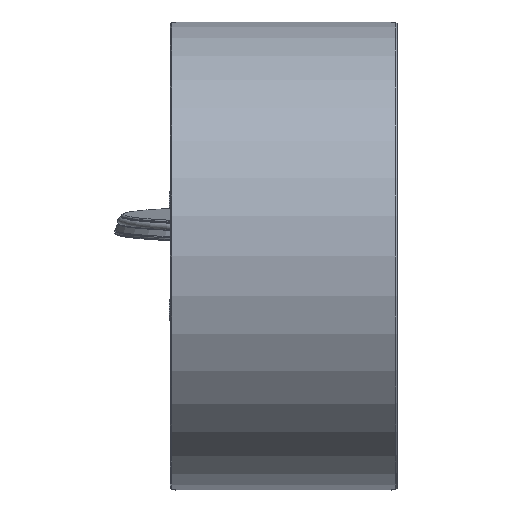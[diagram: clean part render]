
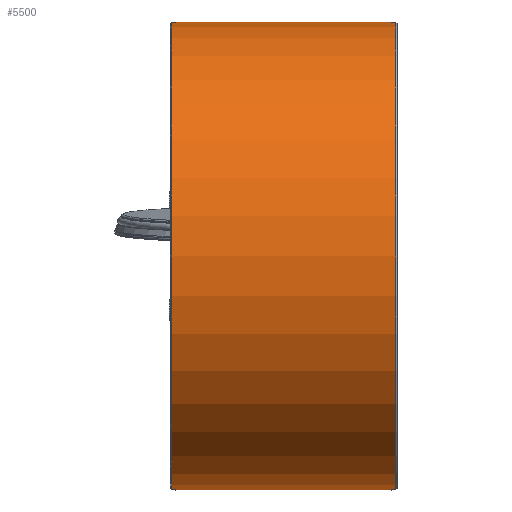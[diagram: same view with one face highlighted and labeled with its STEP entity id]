
A CAD part, left-side view. The second image highlights one B-rep face of the part: STEP entity #5500.
In plain terms, the highlighted cylindrical face has radius 82.5 mm (diameter 165 mm), a full revolution.
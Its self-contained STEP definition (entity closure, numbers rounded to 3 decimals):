
#3520=CYLINDRICAL_SURFACE('',#16841,82.5);
#3832=FACE_BOUND('',#7271,.T.);
#3833=FACE_BOUND('',#7272,.T.);
#3834=FACE_BOUND('',#7273,.T.);
#4775=CIRCLE('',#16831,82.5);
#4776=CIRCLE('',#16832,82.5);
#4777=CIRCLE('',#16833,82.5);
#4778=CIRCLE('',#16834,82.5);
#4779=CIRCLE('',#16835,82.5);
#4780=CIRCLE('',#16836,82.5);
#4781=CIRCLE('',#16837,82.5);
#4782=CIRCLE('',#16838,82.5);
#4783=CIRCLE('',#16839,82.5);
#4784=CIRCLE('',#16840,82.5);
#5500=ADVANCED_FACE('',(#3832,#3833,#3834),#3520,.T.);
#7271=EDGE_LOOP('',(#8701,#8702,#8703,#8704));
#7272=EDGE_LOOP('',(#8705,#8706,#8707,#8708,#8709,#8710,#8711,#8712));
#7273=EDGE_LOOP('',(#8713,#8714,#8715,#8716,#8717,#8718,#8719,#8720));
#8701=ORIENTED_EDGE('',*,*,#13376,.F.);
#8702=ORIENTED_EDGE('',*,*,#13377,.F.);
#8703=ORIENTED_EDGE('',*,*,#13378,.F.);
#8704=ORIENTED_EDGE('',*,*,#13379,.F.);
#8705=ORIENTED_EDGE('',*,*,#13380,.T.);
#8706=ORIENTED_EDGE('',*,*,#13381,.T.);
#8707=ORIENTED_EDGE('',*,*,#13382,.F.);
#8708=ORIENTED_EDGE('',*,*,#13383,.T.);
#8709=ORIENTED_EDGE('',*,*,#13384,.T.);
#8710=ORIENTED_EDGE('',*,*,#13385,.F.);
#8711=ORIENTED_EDGE('',*,*,#13386,.T.);
#8712=ORIENTED_EDGE('',*,*,#13387,.F.);
#8713=ORIENTED_EDGE('',*,*,#13388,.T.);
#8714=ORIENTED_EDGE('',*,*,#13389,.T.);
#8715=ORIENTED_EDGE('',*,*,#13390,.F.);
#8716=ORIENTED_EDGE('',*,*,#13391,.F.);
#8717=ORIENTED_EDGE('',*,*,#13392,.T.);
#8718=ORIENTED_EDGE('',*,*,#13393,.T.);
#8719=ORIENTED_EDGE('',*,*,#13394,.F.);
#8720=ORIENTED_EDGE('',*,*,#13395,.F.);
#12030=VERTEX_POINT('',#22607);
#12031=VERTEX_POINT('',#22608);
#12032=VERTEX_POINT('',#22610);
#12033=VERTEX_POINT('',#22612);
#12034=VERTEX_POINT('',#22615);
#12035=VERTEX_POINT('',#22616);
#12036=VERTEX_POINT('',#22618);
#12037=VERTEX_POINT('',#22620);
#12038=VERTEX_POINT('',#22622);
#12039=VERTEX_POINT('',#22624);
#12040=VERTEX_POINT('',#22626);
#12041=VERTEX_POINT('',#22628);
#12042=VERTEX_POINT('',#22631);
#12043=VERTEX_POINT('',#22632);
#12044=VERTEX_POINT('',#22634);
#12045=VERTEX_POINT('',#22636);
#12046=VERTEX_POINT('',#22638);
#12047=VERTEX_POINT('',#22640);
#12048=VERTEX_POINT('',#22642);
#12049=VERTEX_POINT('',#22644);
#13376=EDGE_CURVE('',#12030,#12031,#4775,.T.);
#13377=EDGE_CURVE('',#12032,#12030,#15063,.T.);
#13378=EDGE_CURVE('',#12033,#12032,#4776,.T.);
#13379=EDGE_CURVE('',#12031,#12033,#15064,.T.);
#13380=EDGE_CURVE('',#12034,#12035,#4777,.T.);
#13381=EDGE_CURVE('',#12035,#12036,#15065,.T.);
#13382=EDGE_CURVE('',#12037,#12036,#4778,.T.);
#13383=EDGE_CURVE('',#12037,#12038,#15066,.T.);
#13384=EDGE_CURVE('',#12038,#12039,#4779,.T.);
#13385=EDGE_CURVE('',#12040,#12039,#15067,.T.);
#13386=EDGE_CURVE('',#12040,#12041,#4780,.T.);
#13387=EDGE_CURVE('',#12034,#12041,#15068,.T.);
#13388=EDGE_CURVE('',#12042,#12043,#4781,.T.);
#13389=EDGE_CURVE('',#12043,#12044,#15069,.T.);
#13390=EDGE_CURVE('',#12045,#12044,#4782,.T.);
#13391=EDGE_CURVE('',#12046,#12045,#15070,.T.);
#13392=EDGE_CURVE('',#12046,#12047,#4783,.T.);
#13393=EDGE_CURVE('',#12047,#12048,#15071,.T.);
#13394=EDGE_CURVE('',#12049,#12048,#4784,.T.);
#13395=EDGE_CURVE('',#12042,#12049,#15072,.T.);
#15063=LINE('',#22609,#15945);
#15064=LINE('',#22613,#15946);
#15065=LINE('',#22617,#15947);
#15066=LINE('',#22621,#15948);
#15067=LINE('',#22625,#15949);
#15068=LINE('',#22629,#15950);
#15069=LINE('',#22633,#15951);
#15070=LINE('',#22637,#15952);
#15071=LINE('',#22641,#15953);
#15072=LINE('',#22645,#15954);
#15945=VECTOR('',#18525,1.);
#15946=VECTOR('',#18528,1.);
#15947=VECTOR('',#18531,1.);
#15948=VECTOR('',#18534,1.);
#15949=VECTOR('',#18537,1.);
#15950=VECTOR('',#18540,1.);
#15951=VECTOR('',#18543,1.);
#15952=VECTOR('',#18546,1.);
#15953=VECTOR('',#18549,1.);
#15954=VECTOR('',#18552,1.);
#16831=AXIS2_PLACEMENT_3D('',#22606,#18523,#18524);
#16832=AXIS2_PLACEMENT_3D('',#22611,#18526,#18527);
#16833=AXIS2_PLACEMENT_3D('',#22614,#18529,#18530);
#16834=AXIS2_PLACEMENT_3D('',#22619,#18532,#18533);
#16835=AXIS2_PLACEMENT_3D('',#22623,#18535,#18536);
#16836=AXIS2_PLACEMENT_3D('',#22627,#18538,#18539);
#16837=AXIS2_PLACEMENT_3D('',#22630,#18541,#18542);
#16838=AXIS2_PLACEMENT_3D('',#22635,#18544,#18545);
#16839=AXIS2_PLACEMENT_3D('',#22639,#18547,#18548);
#16840=AXIS2_PLACEMENT_3D('',#22643,#18550,#18551);
#16841=AXIS2_PLACEMENT_3D('',#22646,#18553,#18554);
#18523=DIRECTION('',(-1.,0.,0.));
#18524=DIRECTION('',(0.,0.,-1.));
#18525=DIRECTION('',(1.,0.,0.));
#18526=DIRECTION('',(1.,0.,0.));
#18527=DIRECTION('',(0.,0.,1.));
#18528=DIRECTION('',(-1.,0.,0.));
#18529=DIRECTION('',(-1.,0.,0.));
#18530=DIRECTION('',(0.,0.,1.));
#18531=DIRECTION('',(-1.,0.,0.));
#18532=DIRECTION('',(1.,0.,0.));
#18533=DIRECTION('',(0.,0.,1.));
#18534=DIRECTION('',(1.,0.,0.));
#18535=DIRECTION('',(-1.,0.,0.));
#18536=DIRECTION('',(0.,0.,1.));
#18537=DIRECTION('',(1.,0.,0.));
#18538=DIRECTION('',(-1.,0.,0.));
#18539=DIRECTION('',(0.,0.,-1.));
#18540=DIRECTION('',(-1.,0.,0.));
#18541=DIRECTION('',(1.,0.,0.));
#18542=DIRECTION('',(0.,0.,1.));
#18543=DIRECTION('',(-1.,0.,0.));
#18544=DIRECTION('',(-1.,0.,0.));
#18545=DIRECTION('',(0.,0.,1.));
#18546=DIRECTION('',(-1.,0.,0.));
#18547=DIRECTION('',(1.,0.,0.));
#18548=DIRECTION('',(0.,0.,-1.));
#18549=DIRECTION('',(-1.,0.,0.));
#18550=DIRECTION('',(-1.,0.,0.));
#18551=DIRECTION('',(0.,0.,1.));
#18552=DIRECTION('',(-1.,0.,0.));
#18553=DIRECTION('',(-1.,0.,0.));
#18554=DIRECTION('',(0.,0.,1.));
#22606=CARTESIAN_POINT('',(68.038,0.,0.));
#22607=CARTESIAN_POINT('',(68.038,70.,43.661));
#22608=CARTESIAN_POINT('',(68.038,70.,-43.661));
#22609=CARTESIAN_POINT('',(0.,70.,43.661));
#22610=CARTESIAN_POINT('',(31.963,70.,43.661));
#22611=CARTESIAN_POINT('',(31.963,0.,0.));
#22612=CARTESIAN_POINT('',(31.963,70.,-43.661));
#22613=CARTESIAN_POINT('',(0.,70.,-43.661));
#22614=CARTESIAN_POINT('',(79.5,0.,0.));
#22615=CARTESIAN_POINT('',(79.5,3.,82.445));
#22616=CARTESIAN_POINT('',(79.5,3.,-82.445));
#22617=CARTESIAN_POINT('',(0.,3.,-82.445));
#22618=CARTESIAN_POINT('',(78.,3.,-82.445));
#22619=CARTESIAN_POINT('',(78.,0.,0.));
#22620=CARTESIAN_POINT('',(78.,-3.,-82.445));
#22621=CARTESIAN_POINT('',(0.,-3.,-82.445));
#22622=CARTESIAN_POINT('',(79.5,-3.,-82.445));
#22623=CARTESIAN_POINT('',(79.5,0.,0.));
#22624=CARTESIAN_POINT('',(79.5,-3.,82.445));
#22625=CARTESIAN_POINT('',(0.,-3.,82.445));
#22626=CARTESIAN_POINT('',(78.,-3.,82.445));
#22627=CARTESIAN_POINT('',(78.,0.,0.));
#22628=CARTESIAN_POINT('',(78.,3.,82.445));
#22629=CARTESIAN_POINT('',(0.,3.,82.445));
#22630=CARTESIAN_POINT('',(2.,0.,0.));
#22631=CARTESIAN_POINT('',(2.,-3.,-82.445));
#22632=CARTESIAN_POINT('',(2.,3.,-82.445));
#22633=CARTESIAN_POINT('',(2.,3.,-82.445));
#22634=CARTESIAN_POINT('',(0.5,3.,-82.445));
#22635=CARTESIAN_POINT('',(0.5,0.,0.));
#22636=CARTESIAN_POINT('',(0.5,3.,82.445));
#22637=CARTESIAN_POINT('',(2.,3.,82.445));
#22638=CARTESIAN_POINT('',(2.,3.,82.445));
#22639=CARTESIAN_POINT('',(2.,0.,0.));
#22640=CARTESIAN_POINT('',(2.,-3.,82.445));
#22641=CARTESIAN_POINT('',(2.,-3.,82.445));
#22642=CARTESIAN_POINT('',(0.5,-3.,82.445));
#22643=CARTESIAN_POINT('',(0.5,0.,0.));
#22644=CARTESIAN_POINT('',(0.5,-3.,-82.445));
#22645=CARTESIAN_POINT('',(2.,-3.,-82.445));
#22646=CARTESIAN_POINT('',(0.,0.,0.));
